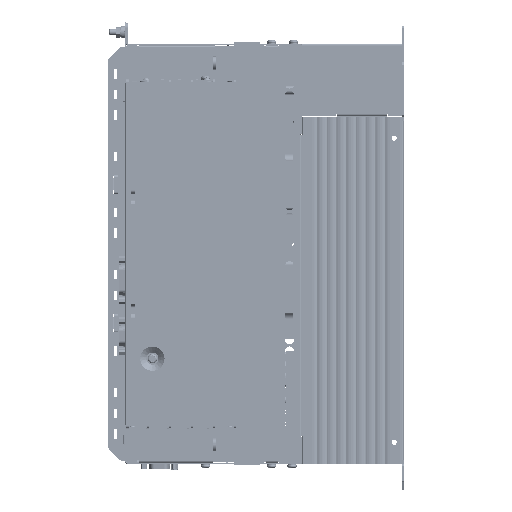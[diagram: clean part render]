
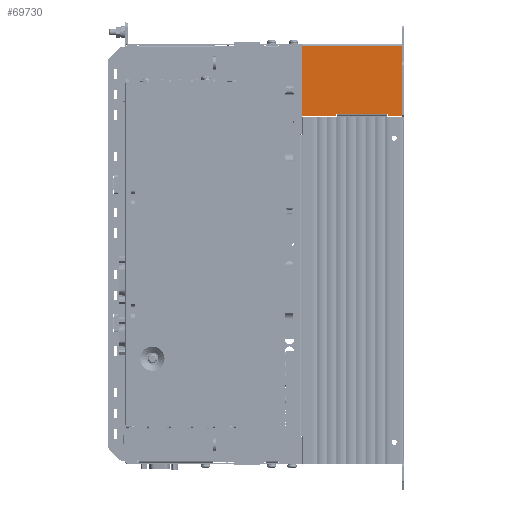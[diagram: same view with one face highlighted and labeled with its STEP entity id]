
A CAD part, left-side view. The second image highlights one B-rep face of the part: STEP entity #69730.
In plain terms, the highlighted planar face has unit normal (-1, 0, 0).
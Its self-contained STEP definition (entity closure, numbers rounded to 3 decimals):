
#69730 = ADVANCED_FACE( 'NONE', ( #142393 ), #142394, .T. );
#142393 = FACE_OUTER_BOUND( '', #217475, .T. );
#142394 = PLANE( '', #217476 );
#217475 = EDGE_LOOP( '', ( #419449, #419450, #419451, #419452, #419453, #419454, #419455, #419456, #419457, #419458 ) );
#217476 = AXIS2_PLACEMENT_3D( '', #419459, #419460, #419461 );
#419449 = ORIENTED_EDGE( '', *, *, #442397, .T. );
#419450 = ORIENTED_EDGE( '', *, *, #456669, .F. );
#419451 = ORIENTED_EDGE( '', *, *, #506788, .F. );
#419452 = ORIENTED_EDGE( '', *, *, #492567, .F. );
#419453 = ORIENTED_EDGE( '', *, *, #439671, .T. );
#419454 = ORIENTED_EDGE( '', *, *, #504023, .T. );
#419455 = ORIENTED_EDGE( '', *, *, #506729, .T. );
#419456 = ORIENTED_EDGE( '', *, *, #485897, .T. );
#419457 = ORIENTED_EDGE( '', *, *, #487292, .T. );
#419458 = ORIENTED_EDGE( '', *, *, #509468, .T. );
#419459 = CARTESIAN_POINT( '', ( -85., 41., 29.75 ) );
#419460 = DIRECTION( '', ( -1., 0., 0. ) );
#419461 = DIRECTION( '', ( 0., 0., 1. ) );
#439671 = EDGE_CURVE( 'NONE', #536146, #536147, #536148, .T. );
#442397 = EDGE_CURVE( 'NONE', #540901, #540899, #540902, .T. );
#456669 = EDGE_CURVE( 'NONE', #564954, #540899, #564956, .T. );
#485897 = EDGE_CURVE( 'NONE', #608298, #608299, #608300, .T. );
#487292 = EDGE_CURVE( 'NONE', #608299, #610210, #610212, .T. );
#492567 = EDGE_CURVE( 'NONE', #536146, #617118, #617121, .T. );
#504023 = EDGE_CURVE( 'NONE', #536147, #631638, #631640, .T. );
#506729 = EDGE_CURVE( 'NONE', #631638, #608298, #634794, .T. );
#506788 = EDGE_CURVE( 'NONE', #617118, #564954, #634863, .T. );
#509468 = EDGE_CURVE( 'NONE', #610210, #540901, #637975, .T. );
#536146 = VERTEX_POINT( 'NONE', #672794 );
#536147 = VERTEX_POINT( 'NONE', #672795 );
#536148 = LINE( '', #672796, #672797 );
#540899 = VERTEX_POINT( 'NONE', #679733 );
#540901 = VERTEX_POINT( 'NONE', #679736 );
#540902 = LINE( '', #679737, #679738 );
#564954 = VERTEX_POINT( 'NONE', #716187 );
#564956 = LINE( '', #716189, #716190 );
#608298 = VERTEX_POINT( 'NONE', #783096 );
#608299 = VERTEX_POINT( 'NONE', #783097 );
#608300 = LINE( '', #783098, #783099 );
#610210 = VERTEX_POINT( 'NONE', #785971 );
#610212 = LINE( '', #785974, #785975 );
#617118 = VERTEX_POINT( 'NONE', #797069 );
#617121 = LINE( '', #797072, #797073 );
#631638 = VERTEX_POINT( 'NONE', #819382 );
#631640 = LINE( '', #819385, #819386 );
#634794 = LINE( '', #824124, #824125 );
#634863 = LINE( '', #824215, #824216 );
#637975 = LINE( '', #828380, #828381 );
#672794 = CARTESIAN_POINT( '', ( -85., 41., -29.75 ) );
#672795 = CARTESIAN_POINT( '', ( -85., 13., -29.75 ) );
#672796 = CARTESIAN_POINT( '', ( -85., 0., -29.75 ) );
#672797 = VECTOR( '', #850069, 1000. );
#679733 = CARTESIAN_POINT( '', ( -85., -41., -29.75 ) );
#679736 = CARTESIAN_POINT( '', ( -85., -30., -29.75 ) );
#679737 = CARTESIAN_POINT( '', ( -85., 0., -29.75 ) );
#679738 = VECTOR( '', #852941, 1000. );
#716187 = CARTESIAN_POINT( '', ( -85., -41., 28.25 ) );
#716189 = CARTESIAN_POINT( '', ( -85., -41., 29.75 ) );
#716190 = VECTOR( '', #867764, 1000. );
#783096 = CARTESIAN_POINT( '', ( -85., 12., -27.75 ) );
#783097 = CARTESIAN_POINT( '', ( -85., -29., -27.75 ) );
#783098 = CARTESIAN_POINT( '', ( -85., 41., -27.75 ) );
#783099 = VECTOR( '', #896344, 1000. );
#785971 = CARTESIAN_POINT( '', ( -85., -30., -27.75 ) );
#785974 = CARTESIAN_POINT( '', ( -85., -30., -27.75 ) );
#785975 = VECTOR( '', #897744, 1000. );
#797069 = CARTESIAN_POINT( '', ( -85., 41., 28.25 ) );
#797072 = CARTESIAN_POINT( '', ( -85., 41., 29.75 ) );
#797073 = VECTOR( '', #902180, 1000. );
#819382 = CARTESIAN_POINT( '', ( -85., 13., -27.75 ) );
#819385 = CARTESIAN_POINT( '', ( -85., 13., -27.75 ) );
#819386 = VECTOR( '', #911217, 1000. );
#824124 = CARTESIAN_POINT( '', ( -85., 12., -27.75 ) );
#824125 = VECTOR( '', #912851, 1000. );
#824215 = CARTESIAN_POINT( '', ( -85., 20.5, 28.25 ) );
#824216 = VECTOR( '', #912880, 1000. );
#828380 = CARTESIAN_POINT( '', ( -85., -30., -29.75 ) );
#828381 = VECTOR( '', #914150, 1000. );
#850069 = DIRECTION( '', ( 0., -1., 0. ) );
#852941 = DIRECTION( '', ( 0., -1., 0. ) );
#867764 = DIRECTION( '', ( 0., 0., -1. ) );
#896344 = DIRECTION( '', ( 0., -1., 0. ) );
#897744 = DIRECTION( '', ( 0., -1., 0. ) );
#902180 = DIRECTION( '', ( 0., 0., 1. ) );
#911217 = DIRECTION( '', ( 0., 0., 1. ) );
#912851 = DIRECTION( '', ( 0., -1., 0. ) );
#912880 = DIRECTION( '', ( 0., -1., 0. ) );
#914150 = DIRECTION( '', ( 0., 0., -1. ) );
